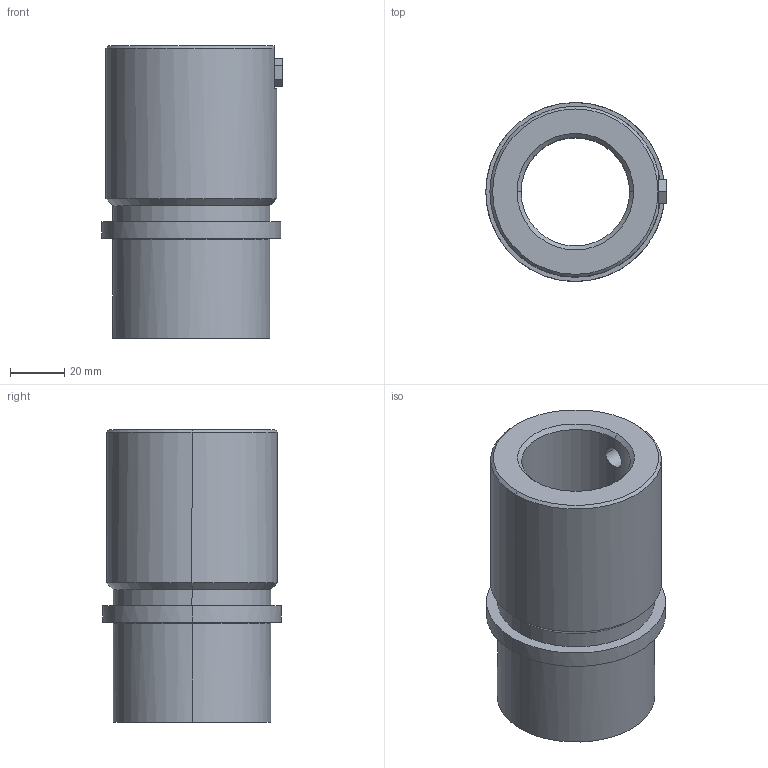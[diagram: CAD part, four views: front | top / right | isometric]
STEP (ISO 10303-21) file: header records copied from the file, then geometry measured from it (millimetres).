
FILE_DESCRIPTION(('CATIA V5 STEP Exchange'),'2;1');
FILE_NAME('C:\Users\Utente\Desktop\IO LAVORO\3D X SITO CF\X SITO\742\742-40.stp','2021-01-23T10:43:58+00:00',('none'),('none'),'CATIA Version 5 Release 20 GA (IN-10)','CATIA V5 STEP AP203','none');
FILE_SCHEMA(('CONFIG_CONTROL_DESIGN'));
Length unit declared in the file: millimetre
Products named in the file (1): 742-40
Assembly tree (1 placements, depth 2):
  742-40
    #58
Bounding box: 66.5 x 66 x 108 mm (x, y, z)
Volume: 180881.3 mm3; surface area: 39525.2 mm2
Topology: 1 solids, 1 shells, 38 faces, 89 edges, 56 vertices
Faces by surface type: plane 14, cylinder 12, cone 8, torus 4
Entity records: 1258 total; most frequent: CARTESIAN_POINT 350, ORIENTED_EDGE 178, DIRECTION 155, EDGE_CURVE 89, AXIS2_PLACEMENT_3D 74, VERTEX_POINT 56, EDGE_LOOP 43, VECTOR 41
